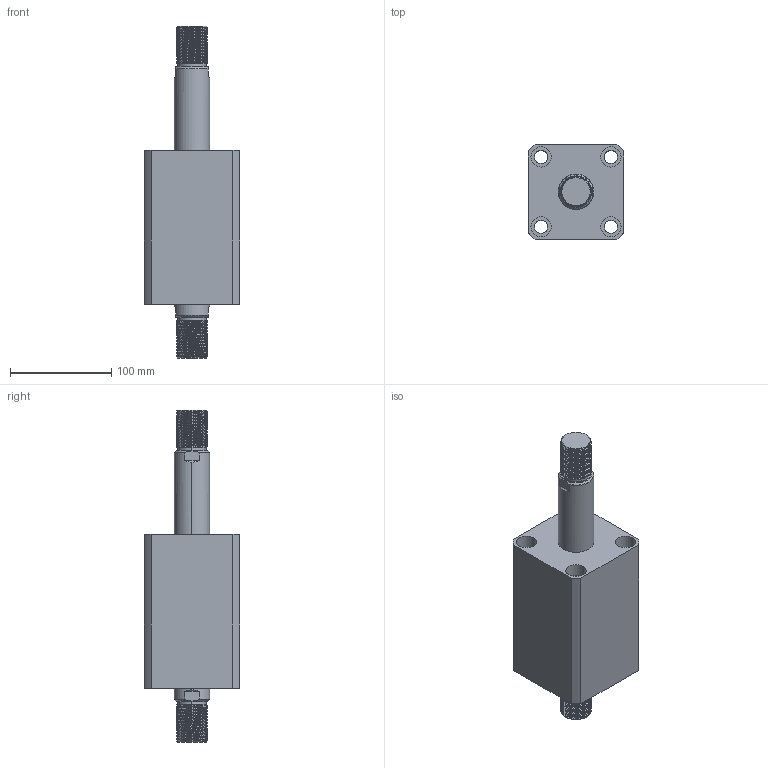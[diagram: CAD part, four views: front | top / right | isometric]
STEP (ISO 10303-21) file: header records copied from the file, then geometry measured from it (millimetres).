
FILE_DESCRIPTION (( 'STEP AP214' ), '1' );
FILE_NAME ('chtb-sw63x70w_asm.STEP', '2018-05-19T03:23:32', ( 'Windows' ), ( 'Microsoft' ), 'SwSTEP 2.0', 'SolidWorks 2015', '' );
FILE_SCHEMA (( 'AUTOMOTIVE_DESIGN' ));
Length unit declared in the file: millimetre
Products named in the file (4): CHTB-SW63X70WHSG; CHTB-SW63X70NBT; CHTB-63QG; chtb-sw63x70w_asm
Assembly tree (3 placements, depth 2):
  chtb-sw63x70w_asm
    CHTB-63QG
    CHTB-SW63X70NBT
    CHTB-SW63X70WHSG
Bounding box: 94 x 94 x 328 mm (x, y, z)
Volume: 1219950.3 mm3; surface area: 194617.7 mm2
Topology: 3 solids, 3 shells, 296 faces, 841 edges, 569 vertices
Faces by surface type: cylinder 206, plane 46, bspline 16, cone 16, torus 12
Entity records: 27380 total; most frequent: CARTESIAN_POINT 20442, ORIENTED_EDGE 1674, DIRECTION 1166, EDGE_CURVE 837, VERTEX_POINT 569, AXIS2_PLACEMENT_3D 453, EDGE_LOOP 334, ADVANCED_FACE 296
